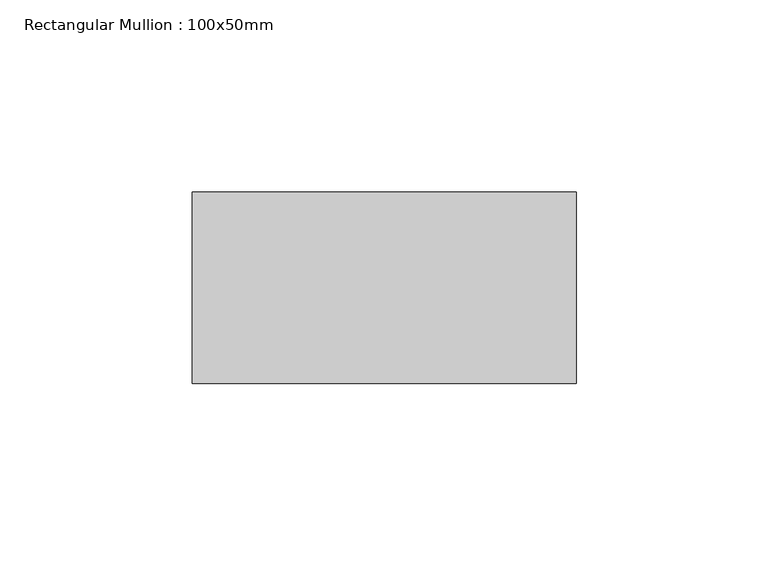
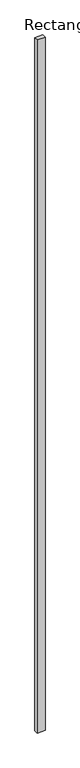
"""IFC4 building model written with IfcOpenShell, lengths in millimetres: member geometry, Rectangular Mullion : 100x50mm."""

from ifc_helpers import new_model, si_unit, frame, origin, place, context, project, spatial, polyline, outline, extrude, source, transform, mapped, element, save


def rectangular_mullion_100x50mm_35d8fc28(model_context):
    return source(origin(), model_context, "Body", "SweptSolid", [
        extrude(outline(polyline([(50.0, 25.0), (50.0, -25.0), (-50.0, -25.0), (-50.0, 25.0), (50.0, 25.0)])), frame((0.0, 0.0, -9320.0024463), z_axis=(0.0, 0.0, 1.0), x_axis=(1.0, 0.0, 0.0)), (0.0, 0.0, 1.0), 9320.0024463),
    ])


if __name__ == "__main__":
    model = new_model("IFC4")
    model_context = context("Model", 3, world=origin())
    ifc_project = project(units=[si_unit("LENGTHUNIT", "METRE", prefix="MILLI")], contexts=[model_context])
    site = spatial("IfcSite", under=ifc_project)
    building = spatial("IfcBuilding", under=site)
    placement = place(None, origin())
    rectangular_mullion_100x50mm_shape = rectangular_mullion_100x50mm_35d8fc28(model_context)
    element("IfcMember", 1, ObjectType="Rectangular Mullion : 100x50mm", at=placement, inside=building, context=model_context, shape_type="MappedRepresentation", body=[
        mapped(rectangular_mullion_100x50mm_shape, transform((0.0, 0.0, 0.0), x_axis=(1.0, 0.0, 0.0), y_axis=(0.0, 1.0, 0.0), z_axis=(0.0, 0.0, 1.0))),
    ])
    save(model, "model.ifc")
